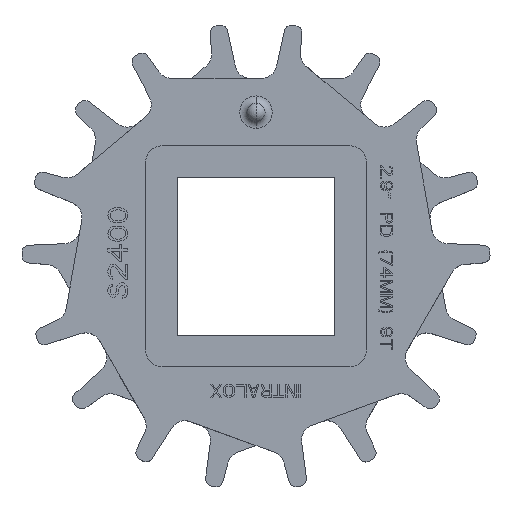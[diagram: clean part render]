
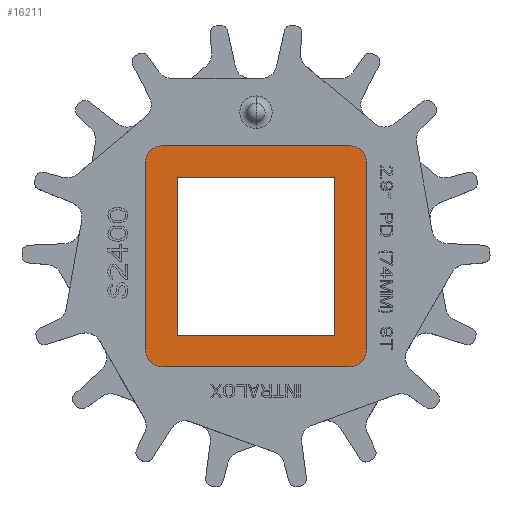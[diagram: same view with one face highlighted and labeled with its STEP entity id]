
A CAD part, top view. The second image highlights one B-rep face of the part: STEP entity #16211.
In plain terms, the highlighted planar face has unit normal (0, 0, 1).
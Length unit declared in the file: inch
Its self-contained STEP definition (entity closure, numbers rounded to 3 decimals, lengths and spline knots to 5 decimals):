
#4071=DIRECTION('',(1.,0.,0.));
#4072=VECTOR('',#4071,1.16985);
#4073=CARTESIAN_POINT('',(-0.58492,-0.69,0.49));
#4074=LINE('',#4073,#4072);
#4075=CARTESIAN_POINT('',(-0.58492,-0.58492,0.49));
#4076=DIRECTION('',(0.,0.,1.));
#4077=DIRECTION('',(-1.,0.,0.));
#4078=AXIS2_PLACEMENT_3D('',#4075,#4076,#4077);
#4080=DIRECTION('',(0.,-1.,0.));
#4081=VECTOR('',#4080,1.16985);
#4082=CARTESIAN_POINT('',(-0.69,0.58492,0.49));
#4083=LINE('',#4082,#4081);
#4084=CARTESIAN_POINT('',(-0.58492,0.58492,0.49));
#4085=DIRECTION('',(0.,0.,1.));
#4086=DIRECTION('',(0.,1.,0.));
#4087=AXIS2_PLACEMENT_3D('',#4084,#4085,#4086);
#4089=DIRECTION('',(-1.,0.,0.));
#4090=VECTOR('',#4089,1.16985);
#4091=CARTESIAN_POINT('',(0.58492,0.69,0.49));
#4092=LINE('',#4091,#4090);
#4093=CARTESIAN_POINT('',(0.58492,0.58492,0.49));
#4094=DIRECTION('',(0.,0.,1.));
#4095=DIRECTION('',(1.,0.,0.));
#4096=AXIS2_PLACEMENT_3D('',#4093,#4094,#4095);
#4098=DIRECTION('',(0.,1.,0.));
#4099=VECTOR('',#4098,1.16985);
#4100=CARTESIAN_POINT('',(0.69,-0.58492,0.49));
#4101=LINE('',#4100,#4099);
#4102=CARTESIAN_POINT('',(0.58492,-0.58492,0.49));
#4103=DIRECTION('',(0.,0.,1.));
#4104=DIRECTION('',(0.,-1.,0.));
#4105=AXIS2_PLACEMENT_3D('',#4102,#4103,#4104);
#4107=DIRECTION('',(1.,0.,0.));
#4108=VECTOR('',#4107,0.984);
#4109=CARTESIAN_POINT('',(-0.492,-0.492,0.49));
#4110=LINE('',#4109,#4108);
#4111=DIRECTION('',(0.,1.,0.));
#4112=VECTOR('',#4111,0.984);
#4113=CARTESIAN_POINT('',(0.492,-0.492,0.49));
#4114=LINE('',#4113,#4112);
#4115=DIRECTION('',(-1.,0.,0.));
#4116=VECTOR('',#4115,0.984);
#4117=CARTESIAN_POINT('',(0.492,0.492,0.49));
#4118=LINE('',#4117,#4116);
#4119=DIRECTION('',(0.,-1.,0.));
#4120=VECTOR('',#4119,0.984);
#4121=CARTESIAN_POINT('',(-0.492,0.492,0.49));
#4122=LINE('',#4121,#4120);
#10059=CARTESIAN_POINT('',(-0.58492,-0.69,0.49));
#10060=CARTESIAN_POINT('',(0.58492,-0.69,0.49));
#10061=VERTEX_POINT('',#10059);
#10062=VERTEX_POINT('',#10060);
#10063=CARTESIAN_POINT('',(0.69,-0.58492,0.49));
#10064=VERTEX_POINT('',#10063);
#10065=CARTESIAN_POINT('',(0.69,0.58492,0.49));
#10066=VERTEX_POINT('',#10065);
#10067=CARTESIAN_POINT('',(0.58492,0.69,0.49));
#10068=VERTEX_POINT('',#10067);
#10069=CARTESIAN_POINT('',(-0.58492,0.69,0.49));
#10070=VERTEX_POINT('',#10069);
#10071=CARTESIAN_POINT('',(-0.69,0.58492,0.49));
#10072=VERTEX_POINT('',#10071);
#10073=CARTESIAN_POINT('',(-0.69,-0.58492,0.49));
#10074=VERTEX_POINT('',#10073);
#10091=CARTESIAN_POINT('',(-0.492,-0.492,0.49));
#10092=CARTESIAN_POINT('',(0.492,-0.492,0.49));
#10093=VERTEX_POINT('',#10091);
#10094=VERTEX_POINT('',#10092);
#10095=CARTESIAN_POINT('',(0.492,0.492,0.49));
#10096=VERTEX_POINT('',#10095);
#10097=CARTESIAN_POINT('',(-0.492,0.492,0.49));
#10098=VERTEX_POINT('',#10097);
#16179=CARTESIAN_POINT('',(0.,0.,0.49));
#16180=DIRECTION('',(0.,0.,1.));
#16181=DIRECTION('',(1.,0.,0.));
#16182=AXIS2_PLACEMENT_3D('',#16179,#16180,#16181);
#16183=PLANE('',#16182);
#16185=ORIENTED_EDGE('',*,*,#16184,.F.);
#16187=ORIENTED_EDGE('',*,*,#16186,.F.);
#16189=ORIENTED_EDGE('',*,*,#16188,.F.);
#16191=ORIENTED_EDGE('',*,*,#16190,.F.);
#16193=ORIENTED_EDGE('',*,*,#16192,.F.);
#16195=ORIENTED_EDGE('',*,*,#16194,.F.);
#16197=ORIENTED_EDGE('',*,*,#16196,.F.);
#16199=ORIENTED_EDGE('',*,*,#16198,.F.);
#16200=EDGE_LOOP('',(#16185,#16187,#16189,#16191,#16193,#16195,#16197,#16199));
#16201=FACE_OUTER_BOUND('',#16200,.F.);
#16202=ORIENTED_EDGE('',*,*,#16169,.T.);
#16204=ORIENTED_EDGE('',*,*,#16203,.T.);
#16206=ORIENTED_EDGE('',*,*,#16205,.T.);
#16208=ORIENTED_EDGE('',*,*,#16207,.T.);
#16209=EDGE_LOOP('',(#16202,#16204,#16206,#16208));
#16210=FACE_BOUND('',#16209,.F.);
#16211=ADVANCED_FACE('',(#16201,#16210),#16183,.T.);
#4079=CIRCLE('',#4078,0.10508);
#4088=CIRCLE('',#4087,0.10508);
#4097=CIRCLE('',#4096,0.10508);
#4106=CIRCLE('',#4105,0.10508);
#16169=EDGE_CURVE('',#10093,#10094,#4110,.T.);
#16184=EDGE_CURVE('',#10061,#10062,#4074,.T.);
#16186=EDGE_CURVE('',#10074,#10061,#4079,.T.);
#16188=EDGE_CURVE('',#10072,#10074,#4083,.T.);
#16190=EDGE_CURVE('',#10070,#10072,#4088,.T.);
#16192=EDGE_CURVE('',#10068,#10070,#4092,.T.);
#16194=EDGE_CURVE('',#10066,#10068,#4097,.T.);
#16196=EDGE_CURVE('',#10064,#10066,#4101,.T.);
#16198=EDGE_CURVE('',#10062,#10064,#4106,.T.);
#16203=EDGE_CURVE('',#10094,#10096,#4114,.T.);
#16205=EDGE_CURVE('',#10096,#10098,#4118,.T.);
#16207=EDGE_CURVE('',#10098,#10093,#4122,.T.);
